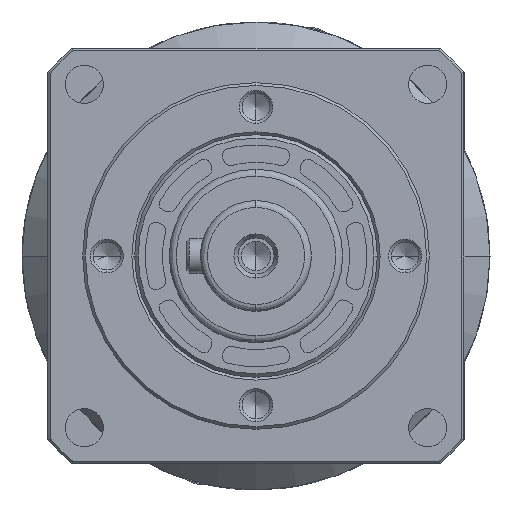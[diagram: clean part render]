
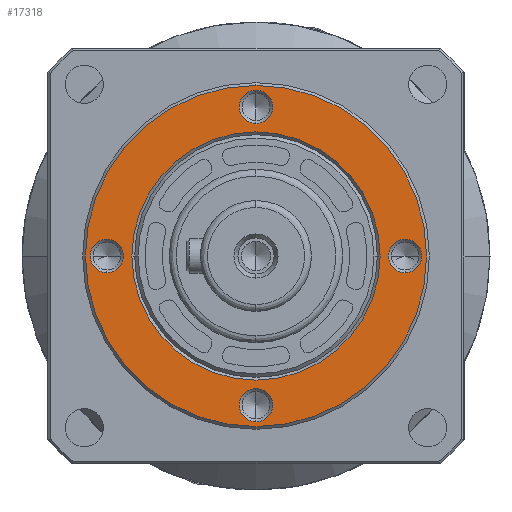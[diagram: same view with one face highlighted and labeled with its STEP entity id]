
A CAD part, left-side view. The second image highlights one B-rep face of the part: STEP entity #17318.
In plain terms, the highlighted planar face has unit normal (-1, 0, 0).
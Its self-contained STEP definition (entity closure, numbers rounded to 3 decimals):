
#1077 = EDGE_LOOP ( 'NONE', ( #10768, #20912 ) ) ;
#1215 = CARTESIAN_POINT ( 'NONE',  ( -7., -21.5, 0. ) ) ;
#1238 = CARTESIAN_POINT ( 'NONE',  ( -7., -17.9, 0. ) ) ;
#1418 = AXIS2_PLACEMENT_3D ( 'NONE', #5729, #31921, #3096 ) ;
#2596 = AXIS2_PLACEMENT_3D ( 'NONE', #22742, #17164, #12075 ) ;
#2880 = AXIS2_PLACEMENT_3D ( 'NONE', #9962, #18274, #7284 ) ;
#3096 = DIRECTION ( 'NONE',  ( 0., 0., 1. ) ) ;
#3228 = EDGE_LOOP ( 'NONE', ( #7145, #27404 ) ) ;
#4271 = DIRECTION ( 'NONE',  ( 0., 0., 1. ) ) ;
#4808 = FACE_BOUND ( 'NONE', #10027, .T. ) ;
#5441 = CARTESIAN_POINT ( 'NONE',  ( -7., 17.9, 0. ) ) ;
#5693 = DIRECTION ( 'NONE',  ( -1., 0., 0. ) ) ;
#5729 = CARTESIAN_POINT ( 'NONE',  ( -7., 0., -21.5 ) ) ;
#6452 = DIRECTION ( 'NONE',  ( 0., 0., -1. ) ) ;
#6470 = VERTEX_POINT ( 'NONE', #5441 ) ;
#6843 = DIRECTION ( 'NONE',  ( 0., 0., 1. ) ) ;
#6863 = FACE_BOUND ( 'NONE', #20099, .T. ) ;
#6864 = CIRCLE ( 'NONE', #9104, 2.4 ) ;
#7145 = ORIENTED_EDGE ( 'NONE', *, *, #20719, .F. ) ;
#7244 = EDGE_CURVE ( 'NONE', #29982, #7573, #25403, .T. ) ;
#7266 = VERTEX_POINT ( 'NONE', #22691 ) ;
#7284 = DIRECTION ( 'NONE',  ( 0., 0., -1. ) ) ;
#7573 = VERTEX_POINT ( 'NONE', #31836 ) ;
#8105 = AXIS2_PLACEMENT_3D ( 'NONE', #27990, #17765, #15264 ) ;
#8350 = DIRECTION ( 'NONE',  ( 0., 0., 1. ) ) ;
#8824 = CARTESIAN_POINT ( 'NONE',  ( -7., 0., 23.9 ) ) ;
#9104 = AXIS2_PLACEMENT_3D ( 'NONE', #16374, #5693, #8350 ) ;
#9251 = ORIENTED_EDGE ( 'NONE', *, *, #32803, .F. ) ;
#9536 = CIRCLE ( 'NONE', #13706, 2.4 ) ;
#9772 = AXIS2_PLACEMENT_3D ( 'NONE', #24852, #19929, #11990 ) ;
#9773 = ORIENTED_EDGE ( 'NONE', *, *, #16826, .F. ) ;
#9962 = CARTESIAN_POINT ( 'NONE',  ( -7., 0., 0. ) ) ;
#10027 = EDGE_LOOP ( 'NONE', ( #13414, #25078 ) ) ;
#10151 = EDGE_CURVE ( 'NONE', #19026, #33184, #16428, .T. ) ;
#10485 = DIRECTION ( 'NONE',  ( -1., 0., 0. ) ) ;
#10620 = CARTESIAN_POINT ( 'NONE',  ( -7., 21.5, -2.4 ) ) ;
#10768 = ORIENTED_EDGE ( 'NONE', *, *, #7244, .F. ) ;
#11778 = DIRECTION ( 'NONE',  ( 0., 0., 1. ) ) ;
#11990 = DIRECTION ( 'NONE',  ( 0., -1., 0. ) ) ;
#12075 = DIRECTION ( 'NONE',  ( 0., -1., 0. ) ) ;
#12119 = CARTESIAN_POINT ( 'NONE',  ( -7., 0., -23.9 ) ) ;
#12174 = AXIS2_PLACEMENT_3D ( 'NONE', #18253, #31144, #25961 ) ;
#12248 = AXIS2_PLACEMENT_3D ( 'NONE', #21210, #10485, #26612 ) ;
#12294 = FACE_BOUND ( 'NONE', #3228, .T. ) ;
#12880 = EDGE_CURVE ( 'NONE', #7573, #29982, #22984, .T. ) ;
#13414 = ORIENTED_EDGE ( 'NONE', *, *, #14040, .F. ) ;
#13706 = AXIS2_PLACEMENT_3D ( 'NONE', #25438, #22558, #27630 ) ;
#13956 = FACE_BOUND ( 'NONE', #21932, .T. ) ;
#14040 = EDGE_CURVE ( 'NONE', #32911, #6470, #33965, .T. ) ;
#14393 = CIRCLE ( 'NONE', #25140, 2.4 ) ;
#14909 = CARTESIAN_POINT ( 'NONE',  ( -7., 0., 19.1 ) ) ;
#15264 = DIRECTION ( 'NONE',  ( 0., 0., -1. ) ) ;
#16348 = AXIS2_PLACEMENT_3D ( 'NONE', #24873, #27531, #11778 ) ;
#16374 = CARTESIAN_POINT ( 'NONE',  ( -7., 21.5, 0. ) ) ;
#16428 = CIRCLE ( 'NONE', #12248, 2.4 ) ;
#16826 = EDGE_CURVE ( 'NONE', #25757, #7266, #18485, .T. ) ;
#17164 = DIRECTION ( 'NONE',  ( -1., 0., 0. ) ) ;
#17318 = ADVANCED_FACE ( 'NONE', ( #33292, #13956, #12294, #6863, #4808, #31220 ), #27676, .F. ) ;
#17765 = DIRECTION ( 'NONE',  ( 1., 0., 0. ) ) ;
#18253 = CARTESIAN_POINT ( 'NONE',  ( -7., 0., 21.5 ) ) ;
#18274 = DIRECTION ( 'NONE',  ( 1., 0., 0. ) ) ;
#18485 = CIRCLE ( 'NONE', #27151, 2.4 ) ;
#18884 = VERTEX_POINT ( 'NONE', #12119 ) ;
#19026 = VERTEX_POINT ( 'NONE', #14909 ) ;
#19403 = DIRECTION ( 'NONE',  ( 1., 0., 0. ) ) ;
#19924 = CIRCLE ( 'NONE', #2596, 17.9 ) ;
#19929 = DIRECTION ( 'NONE',  ( -1., 0., 0. ) ) ;
#19981 = CARTESIAN_POINT ( 'NONE',  ( -7., 21.5, 0. ) ) ;
#20099 = EDGE_LOOP ( 'NONE', ( #9773, #27817 ) ) ;
#20719 = EDGE_CURVE ( 'NONE', #33184, #19026, #31501, .T. ) ;
#20912 = ORIENTED_EDGE ( 'NONE', *, *, #12880, .F. ) ;
#21210 = CARTESIAN_POINT ( 'NONE',  ( -7., 0., 21.5 ) ) ;
#21932 = EDGE_LOOP ( 'NONE', ( #28447, #9251 ) ) ;
#22558 = DIRECTION ( 'NONE',  ( -1., 0., 0. ) ) ;
#22691 = CARTESIAN_POINT ( 'NONE',  ( -7., -21.5, -2.4 ) ) ;
#22742 = CARTESIAN_POINT ( 'NONE',  ( -7., 0., 0. ) ) ;
#22799 = VERTEX_POINT ( 'NONE', #29683 ) ;
#22984 = CIRCLE ( 'NONE', #2880, 24.6 ) ;
#23920 = EDGE_CURVE ( 'NONE', #7266, #25757, #31608, .T. ) ;
#24852 = CARTESIAN_POINT ( 'NONE',  ( -7., 0., 0. ) ) ;
#24873 = CARTESIAN_POINT ( 'NONE',  ( -7., -21.5, 0. ) ) ;
#25078 = ORIENTED_EDGE ( 'NONE', *, *, #32304, .F. ) ;
#25140 = AXIS2_PLACEMENT_3D ( 'NONE', #19981, #27678, #4271 ) ;
#25208 = ORIENTED_EDGE ( 'NONE', *, *, #28371, .F. ) ;
#25392 = EDGE_CURVE ( 'NONE', #22799, #28641, #6864, .T. ) ;
#25403 = CIRCLE ( 'NONE', #8105, 24.6 ) ;
#25438 = CARTESIAN_POINT ( 'NONE',  ( -7., 0., -21.5 ) ) ;
#25757 = VERTEX_POINT ( 'NONE', #31038 ) ;
#25961 = DIRECTION ( 'NONE',  ( 0., 0., 1. ) ) ;
#26457 = EDGE_CURVE ( 'NONE', #26884, #18884, #30226, .T. ) ;
#26612 = DIRECTION ( 'NONE',  ( 0., 0., 1. ) ) ;
#26884 = VERTEX_POINT ( 'NONE', #29215 ) ;
#27151 = AXIS2_PLACEMENT_3D ( 'NONE', #1215, #33042, #6843 ) ;
#27404 = ORIENTED_EDGE ( 'NONE', *, *, #10151, .F. ) ;
#27531 = DIRECTION ( 'NONE',  ( -1., 0., 0. ) ) ;
#27598 = AXIS2_PLACEMENT_3D ( 'NONE', #32460, #19403, #6452 ) ;
#27630 = DIRECTION ( 'NONE',  ( 0., 0., 1. ) ) ;
#27676 = PLANE ( 'NONE',  #27598 ) ;
#27678 = DIRECTION ( 'NONE',  ( -1., 0., 0. ) ) ;
#27784 = CARTESIAN_POINT ( 'NONE',  ( -7., 0., -24.6 ) ) ;
#27817 = ORIENTED_EDGE ( 'NONE', *, *, #23920, .F. ) ;
#27990 = CARTESIAN_POINT ( 'NONE',  ( -7., 0., 0. ) ) ;
#28371 = EDGE_CURVE ( 'NONE', #28641, #22799, #14393, .T. ) ;
#28447 = ORIENTED_EDGE ( 'NONE', *, *, #26457, .F. ) ;
#28641 = VERTEX_POINT ( 'NONE', #10620 ) ;
#29215 = CARTESIAN_POINT ( 'NONE',  ( -7., 0., -19.1 ) ) ;
#29683 = CARTESIAN_POINT ( 'NONE',  ( -7., 21.5, 2.4 ) ) ;
#29982 = VERTEX_POINT ( 'NONE', #27784 ) ;
#30226 = CIRCLE ( 'NONE', #1418, 2.4 ) ;
#31038 = CARTESIAN_POINT ( 'NONE',  ( -7., -21.5, 2.4 ) ) ;
#31144 = DIRECTION ( 'NONE',  ( -1., 0., 0. ) ) ;
#31220 = FACE_OUTER_BOUND ( 'NONE', #1077, .T. ) ;
#31463 = ORIENTED_EDGE ( 'NONE', *, *, #25392, .F. ) ;
#31501 = CIRCLE ( 'NONE', #12174, 2.4 ) ;
#31608 = CIRCLE ( 'NONE', #16348, 2.4 ) ;
#31836 = CARTESIAN_POINT ( 'NONE',  ( -7., 0., 24.6 ) ) ;
#31921 = DIRECTION ( 'NONE',  ( -1., 0., 0. ) ) ;
#32304 = EDGE_CURVE ( 'NONE', #6470, #32911, #19924, .T. ) ;
#32460 = CARTESIAN_POINT ( 'NONE',  ( -7., 25., 0. ) ) ;
#32803 = EDGE_CURVE ( 'NONE', #18884, #26884, #9536, .T. ) ;
#32911 = VERTEX_POINT ( 'NONE', #1238 ) ;
#33042 = DIRECTION ( 'NONE',  ( -1., 0., 0. ) ) ;
#33184 = VERTEX_POINT ( 'NONE', #8824 ) ;
#33292 = FACE_BOUND ( 'NONE', #33617, .T. ) ;
#33617 = EDGE_LOOP ( 'NONE', ( #31463, #25208 ) ) ;
#33965 = CIRCLE ( 'NONE', #9772, 17.9 ) ;
